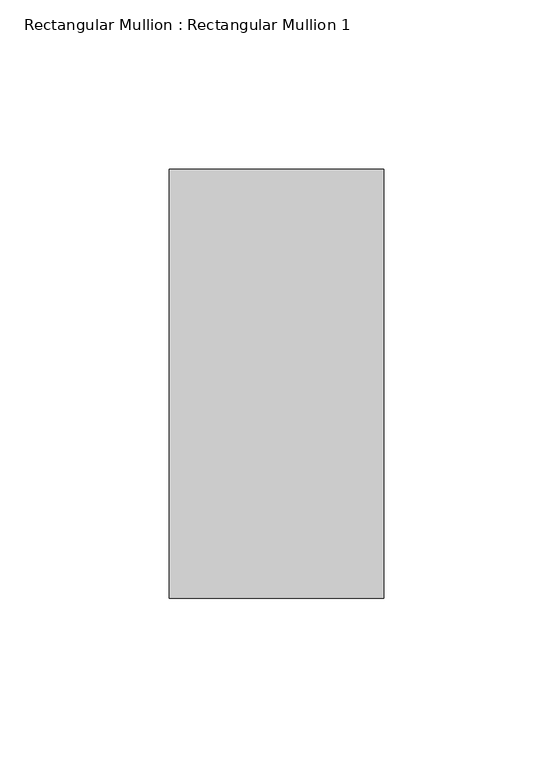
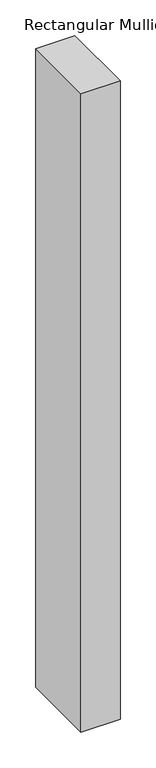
"""IFC4 building model written with IfcOpenShell, lengths in millimetres: member geometry, Rectangular Mullion : Rectangular Mullion 1."""

from ifc_helpers import new_model, si_unit, frame, origin, place, context, project, spatial, polyline, outline, extrude, source, transform, mapped, element, save


def rectangular_mullion_rectangular_mullion_1_239af10d(model_context):
    return source(origin(), model_context, "Body", "SweptSolid", [
        extrude(outline(polyline([(31.75, 63.5), (31.75, -63.5), (-31.75, -63.5), (-31.75, 63.5), (31.75, 63.5)])), frame((0.0, 0.0, -1092.835), z_axis=(0.0, 0.0, 1.0), x_axis=(1.0, 0.0, 0.0)), (0.0, 0.0, 1.0), 1092.835),
    ])


if __name__ == "__main__":
    model = new_model("IFC4")
    model_context = context("Model", 3, world=origin())
    ifc_project = project(units=[si_unit("LENGTHUNIT", "METRE", prefix="MILLI")], contexts=[model_context])
    site = spatial("IfcSite", under=ifc_project)
    building = spatial("IfcBuilding", under=site)
    placement = place(None, origin())
    rectangular_mullion_rectangular_mullion_1_shape = rectangular_mullion_rectangular_mullion_1_239af10d(model_context)
    element("IfcMember", 1, ObjectType="Rectangular Mullion : Rectangular Mullion 1", at=placement, inside=building, context=model_context, shape_type="MappedRepresentation", body=[
        mapped(rectangular_mullion_rectangular_mullion_1_shape, transform((0.0, 0.0, 0.0), x_axis=(1.0, 0.0, 0.0), y_axis=(0.0, 1.0, 0.0), z_axis=(0.0, 0.0, 1.0))),
    ])
    save(model, "model.ifc")
